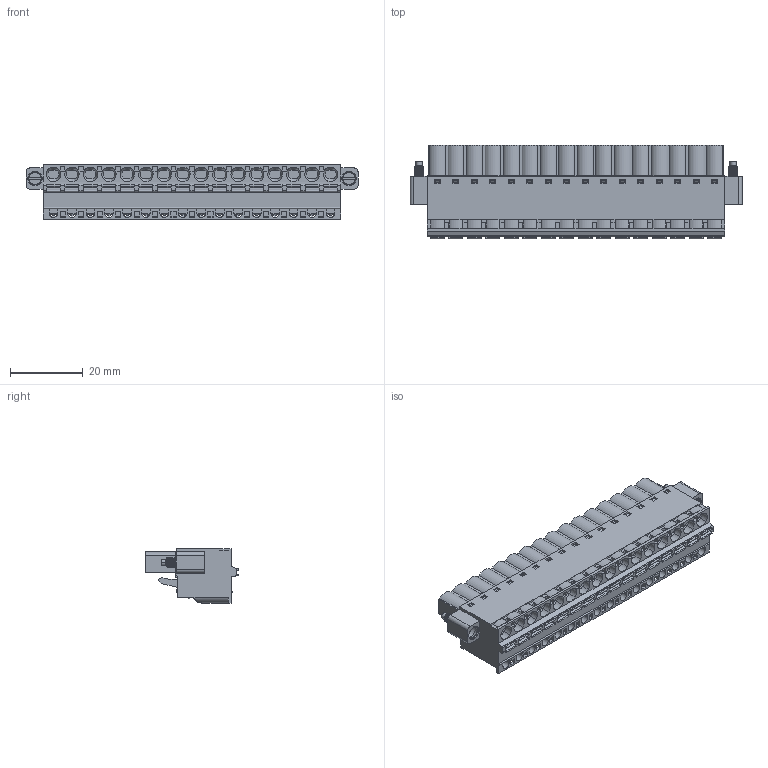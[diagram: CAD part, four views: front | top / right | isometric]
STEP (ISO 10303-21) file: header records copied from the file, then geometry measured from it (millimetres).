
FILE_DESCRIPTION(('Open CASCADE Model'),'2;1');
FILE_NAME('Open CASCADE Shape Model','2022-08-04T10:59:18',('Author'),( 'Open CASCADE'),'Open CASCADE STEP processor 6.5','Open CASCADE 6.5' ,'Unknown');
FILE_SCHEMA(('AUTOMOTIVE_DESIGN { 1 0 10303 214 1 1 1 1 }'));
Length unit declared in the file: millimetre
Products named in the file (1674): CADSOFTTOOLS 5; CADSOFTTOOLS 5.1; CADSOFTTOOLS 5.2; CADSOFTTOOLS 5.3; CADSOFTTOOLS 5.4; CADSOFTTOOLS 5.5; CADSOFTTOOLS 5.6; CADSOFTTOOLS 5.7; CADSOFTTOOLS 5.8; CADSOFTTOOLS 5.9; CADSOFTTOOLS 5.10; CADSOFTTOOLS 5.11; CADSOFTTOOLS 5.12; CADSOFTTOOLS 5.13; CADSOFTTOOLS 5.14; CADSOFTTOOLS 5.15; CADSOFTTOOLS 5.16; CADSOFTTOOLS 5.17; CADSOFTTOOLS 5.18; CADSOFTTOOLS 5.19; CADSOFTTOOLS 5.20; CADSOFTTOOLS 5.21; CADSOFTTOOLS 5.22; CADSOFTTOOLS 5.23; CADSOFTTOOLS 5.24; CADSOFTTOOLS 5.25; CADSOFTTOOLS 5.26; CADSOFTTOOLS 5.27; CADSOFTTOOLS 5.28; CADSOFTTOOLS 5.29; CADSOFTTOOLS 5.30; CADSOFTTOOLS 5.31; CADSOFTTOOLS 5.32; CADSOFTTOOLS 5.33; CADSOFTTOOLS 5.34; CADSOFTTOOLS 5.35; CADSOFTTOOLS 5.36; CADSOFTTOOLS 5.37; CADSOFTTOOLS 5.38; CADSOFTTOOLS 5.39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
Assembly tree (1673 placements, depth 2):
  CADSOFTTOOLS 5
    CADSOFTTOOLS 5.1
    CADSOFTTOOLS 5.2
    CADSOFTTOOLS 5.3
    CADSOFTTOOLS 5.4
    CADSOFTTOOLS 5.5
    CADSOFTTOOLS 5.6
    CADSOFTTOOLS 5.7
    CADSOFTTOOLS 5.8
    CADSOFTTOOLS 5.9
    CADSOFTTOOLS 5.10
    CADSOFTTOOLS 5.11
    CADSOFTTOOLS 5.12
    CADSOFTTOOLS 5.13
    CADSOFTTOOLS 5.14
    CADSOFTTOOLS 5.15
    CADSOFTTOOLS 5.16
    CADSOFTTOOLS 5.17
    CADSOFTTOOLS 5.18
    CADSOFTTOOLS 5.19
    CADSOFTTOOLS 5.20
    CADSOFTTOOLS 5.21
    CADSOFTTOOLS 5.22
    CADSOFTTOOLS 5.23
    CADSOFTTOOLS 5.24
    CADSOFTTOOLS 5.25
    CADSOFTTOOLS 5.26
    CADSOFTTOOLS 5.27
    CADSOFTTOOLS 5.28
    CADSOFTTOOLS 5.29
    CADSOFTTOOLS 5.30
    CADSOFTTOOLS 5.31
    CADSOFTTOOLS 5.32
    CADSOFTTOOLS 5.33
    CADSOFTTOOLS 5.34
    CADSOFTTOOLS 5.35
    CADSOFTTOOLS 5.36
    CADSOFTTOOLS 5.37
    CADSOFTTOOLS 5.38
    CADSOFTTOOLS 5.39
    CADSOFTTOOLS 5.40
    CADSOFTTOOLS 5.41
    CADSOFTTOOLS 5.42
    CADSOFTTOOLS 5.43
    CADSOFTTOOLS 5.44
    CADSOFTTOOLS 5.45
    CADSOFTTOOLS 5.46
    CADSOFTTOOLS 5.47
    CADSOFTTOOLS 5.48
    CADSOFTTOOLS 5.49
    CADSOFTTOOLS 5.50
    CADSOFTTOOLS 5.51
    CADSOFTTOOLS 5.52
    CADSOFTTOOLS 5.53
    CADSOFTTOOLS 5.54
    CADSOFTTOOLS 5.55
    CADSOFTTOOLS 5.56
    CADSOFTTOOLS 5.57
    CADSOFTTOOLS 5.58
    CADSOFTTOOLS 5.59
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Bounding box: 91.28 x 25.6 x 15 mm (x, y, z)
Surface area: 10856.7 mm2 (no closed solid volume)
Topology: 0 solids, 1673 shells, 1673 faces, 9170 edges, 9134 vertices
Faces by surface type: plane 1170, cylinder 313, bspline 100, cone 56, sphere 18, torus 16
Entity records: 231188 total; most frequent: CARTESIAN_POINT 83581, DIRECTION 23100, LINE 12238, VECTOR 12238, VERTEX_POINT 9162, ORIENTED_EDGE 9134, EDGE_CURVE 9134, SURFACE_CURVE 9134
